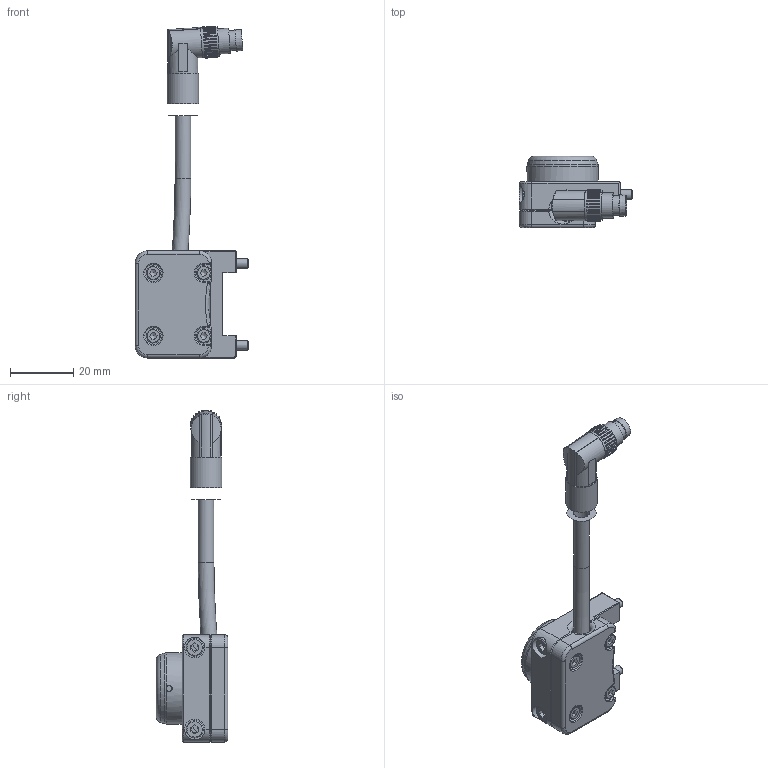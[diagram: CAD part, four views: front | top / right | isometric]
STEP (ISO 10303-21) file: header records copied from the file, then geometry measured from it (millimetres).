
FILE_DESCRIPTION(/* description */ (''),/* implementation_level */ '2;1');
FILE_NAME(/* name */ 'G-SEK100-U-1E12-40-M8_.stp',/* time_stamp */ '2025-11-25T10:37:49+01:00',/* author */ ('ysplieth'),/* organization */ (''),/* preprocessor_version */ 'ST-DEVELOPER v20.1',/* originating_system */ 'Autodesk Inventor 2026',/* authorisation */ '');
FILE_SCHEMA (('AUTOMOTIVE_DESIGN { 1 0 10303 214 3 1 1 }'));
Length unit declared in the file: millimetre
Products named in the file (1): Bauteil6
Bounding box: 36 x 22.7 x 105.36 mm (x, y, z)
Volume: 17186 mm3; surface area: 12627.5 mm2
Topology: 1 solids, 10 shells, 712 faces, 1810 edges, 1160 vertices
Faces by surface type: plane 340, cylinder 260, cone 69, torus 23, bspline 12, sphere 8
Full cylindrical faces by diameter (mm): 0.6 x8, 1 x12, 1.6 x12, 2 x17, 2.013 x4, 2.5 x4, 2.9 x4, 3 x2, 3.4 x2, 4.5 x4, 5 x1, 5.5 x4, 5.8 x1, 6.3 x1, 6.5 x2, 8 x1, 9.4 x1, 10 x1, 14 x1, 15.9 x1, 17 x1, 17.1 x1, 18 x1, 22.6 x1
Entity records: 23768 total; most frequent: CARTESIAN_POINT 5606, DIRECTION 3735, ORIENTED_EDGE 3554, EDGE_CURVE 1777, AXIS2_PLACEMENT_3D 1406, VERTEX_POINT 1160, LINE 923, VECTOR 923
